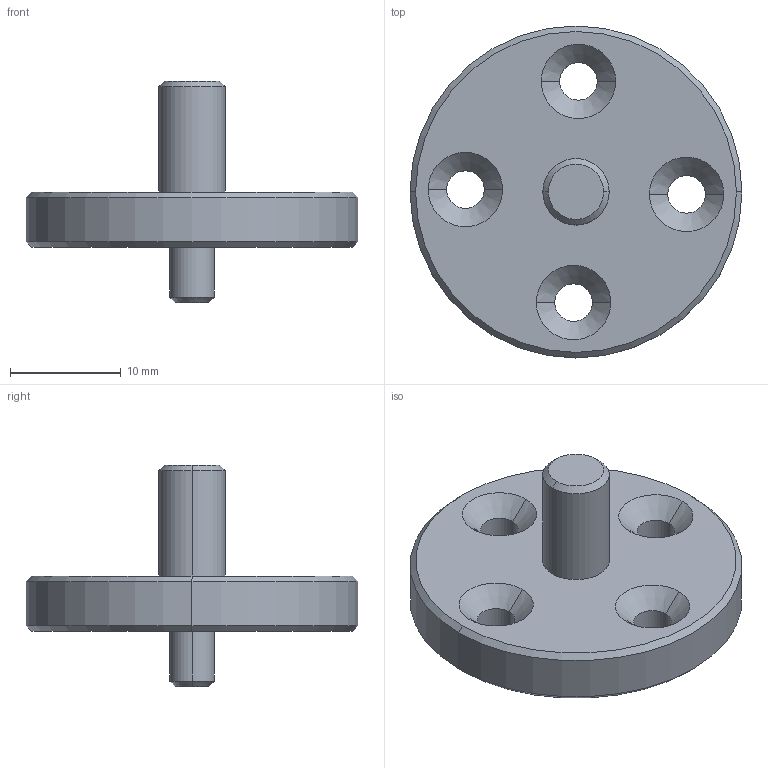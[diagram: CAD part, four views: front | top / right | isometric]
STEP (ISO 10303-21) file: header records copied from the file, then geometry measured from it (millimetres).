
FILE_DESCRIPTION(/* description */ (''),/* implementation_level */ '2;1');
FILE_NAME(/* name */ 'CWC-CY0023-P99_Torque Sensor Shaft.stp',/* time_stamp */ '2026-02-27T15:58:55+01:00',/* author */ (''),/* organization */ (''),/* preprocessor_version */ 'ST-DEVELOPER v18.1',/* originating_system */ 'SIEMENS PLM Software NX 1988',/* authorisation */ '');
FILE_SCHEMA (('AUTOMOTIVE_DESIGN { 1 0 10303 214 3 1 1 1 }'));
Length unit declared in the file: millimetre
Products named in the file (1): anto4E0CB30D4gtx
Bounding box: 30 x 30 x 20 mm (x, y, z)
Volume: 3593.3 mm3; surface area: 2184.4 mm2
Topology: 1 solids, 1 shells, 34 faces, 74 edges, 44 vertices
Faces by surface type: cone 16, cylinder 14, plane 4
Entity records: 982 total; most frequent: DIRECTION 188, CARTESIAN_POINT 153, ORIENTED_EDGE 148, AXIS2_PLACEMENT_3D 79, EDGE_CURVE 74, EDGE_LOOP 44, CIRCLE 44, VERTEX_POINT 44
